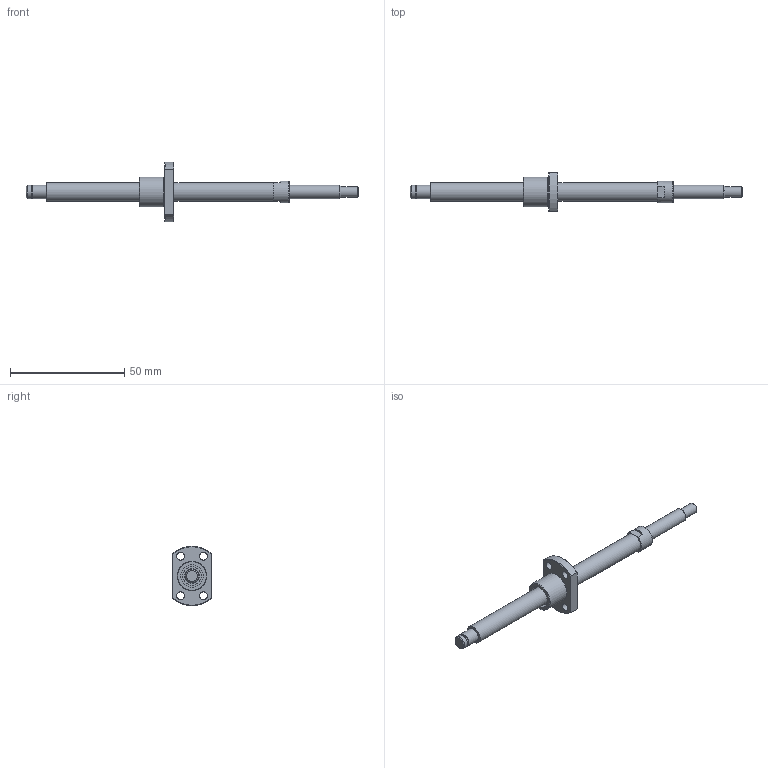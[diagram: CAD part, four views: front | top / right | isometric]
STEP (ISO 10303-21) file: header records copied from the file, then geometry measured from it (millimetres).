
FILE_DESCRIPTION(/* description */ ('STEP AP203'),/* implementation_level */ '2;1');
FILE_NAME(/* name */ 'BNK0801-3G0+145LC5Y(55.5)',/* time_stamp */ '2024-07-09T08:29:19+02:00',/* author */ ('License CC BY-ND 4.0'),/* organization */ ('CADENAS'),/* preprocessor_version */ 'ST-DEVELOPER v19.3',/* originating_system */ 'PARTsolutions',/* authorisation */ ' ');
FILE_SCHEMA (('CONFIG_CONTROL_DESIGN'));
Length unit declared in the file: millimetre
Products named in the file (3): BNK0801-3G0+145LC5Y(55.5); BNK 0801-3G0+145LC5Y Shaft; BNK 0801-3G0+145LC5Y Nut
Assembly tree (2 placements, depth 2):
  BNK0801-3G0+145LC5Y(55.5)
    BNK 0801-3G0+145LC5Y Shaft
    BNK 0801-3G0+145LC5Y Nut
Bounding box: 145 x 17 x 25.92 mm (x, y, z)
Volume: 8524.4 mm3; surface area: 5509 mm2
Topology: 2 solids, 2 shells, 50 faces, 101 edges, 64 vertices
Faces by surface type: plane 21, cylinder 18, cone 9, torus 2
Full cylindrical faces by diameter (mm): 3.4 x4, 4.5 x1, 5.7 x1, 6 x3, 8 x2, 9.5 x1, 10 x2, 12 x1, 13 x1
Entity records: 1295 total; most frequent: DIRECTION 226, CARTESIAN_POINT 217, ORIENTED_EDGE 154, AXIS2_PLACEMENT_3D 104, EDGE_LOOP 92, FACE_BOUND 92, EDGE_CURVE 77, VERTEX_POINT 63
